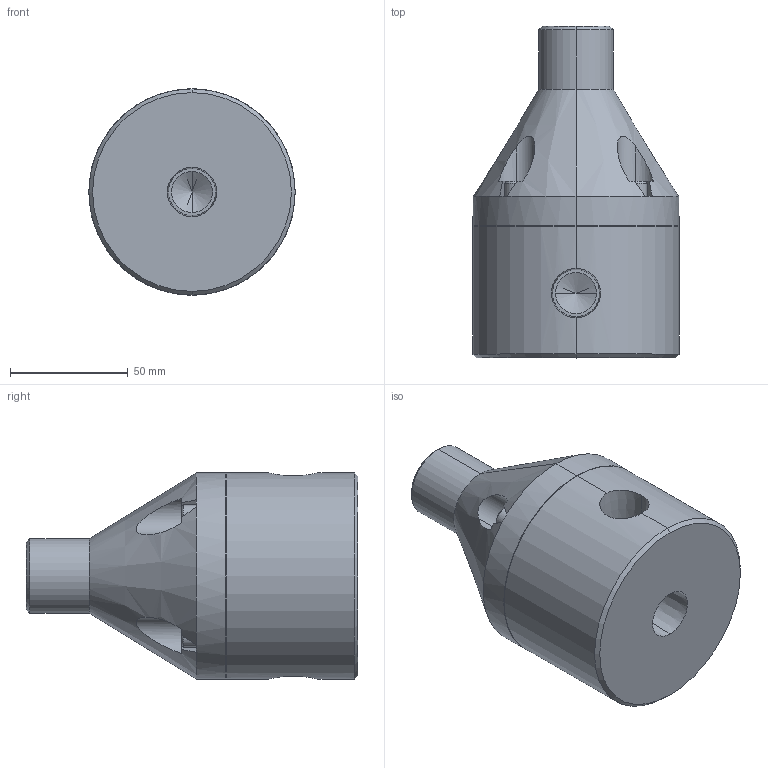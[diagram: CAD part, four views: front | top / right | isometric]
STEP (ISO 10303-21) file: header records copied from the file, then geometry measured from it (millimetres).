
FILE_DESCRIPTION (( 'STEP AP203' ), '1' );
FILE_NAME ('GPR0500-BSPT.STEP', '2015-04-27T09:57:24', ( 'Dan Bernard' ), ( '' ), 'SwSTEP 2.0', 'SolidWorks 2008', '' );
FILE_SCHEMA (( 'CONFIG_CONTROL_DESIGN' ));
Length unit declared in the file: inch
Products named in the file (1): GPR0500-BSPT
Bounding box: 87.63 x 140.97 x 87.63 mm (x, y, z)
Volume: 541384.5 mm3; surface area: 51311.8 mm2
Topology: 1 solids, 1 shells, 134 faces, 322 edges, 201 vertices
Faces by surface type: plane 72, cone 30, cylinder 30, torus 2
Entity records: 4306 total; most frequent: CARTESIAN_POINT 1093, DIRECTION 666, ORIENTED_EDGE 632, EDGE_CURVE 316, AXIS2_PLACEMENT_3D 237, VERTEX_POINT 201, VECTOR 192, LINE 192
